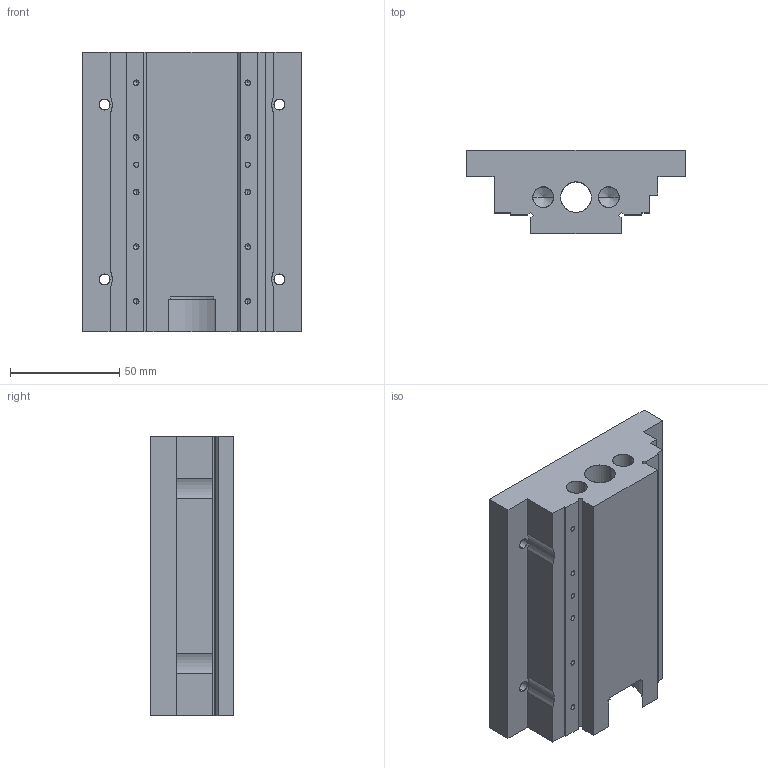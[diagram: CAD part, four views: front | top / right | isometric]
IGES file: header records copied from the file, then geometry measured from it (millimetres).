
Start section: SolidWorks IGES file using analytic representation for surfaces
Global section: file name: J:\Scolaire\BAC Pro\Epreuves professionnelles\E2\CD\Dossier Examinateurs\Dessins CN 5 axes\IGES\piece ph20.IGS; native system: SolidWorks 2005 by SolidWorks Corporation; preprocessor: SolidWorks 2005 by SolidWorks Corporation; author: Famille Couzi; date: 091204.124008; units: millimetre
Bounding box: 100 x 38 x 128 mm (x, y, z)
Surface area: 53566.6 mm2 (no closed solid volume)
Topology: 0 solids, 0 shells, 128 faces, 1892 edges, 1860 vertices
Faces by surface type: revolution 92, bspline 36
